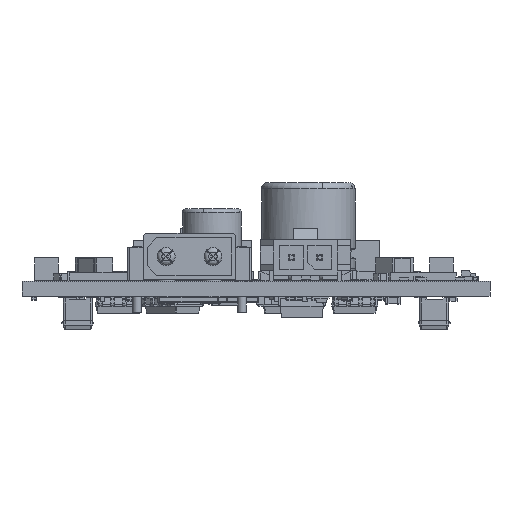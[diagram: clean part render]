
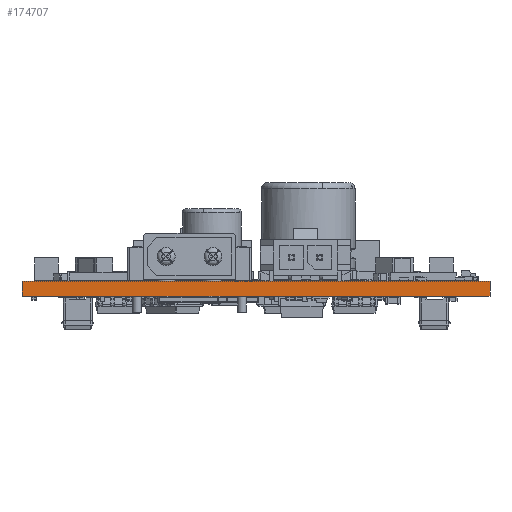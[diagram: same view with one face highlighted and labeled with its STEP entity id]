
A CAD part, front view. The second image highlights one B-rep face of the part: STEP entity #174707.
In plain terms, the highlighted planar face has unit normal (0, -1, 0).
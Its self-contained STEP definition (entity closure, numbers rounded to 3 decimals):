
#173170 = PLANE('',#173171);
#173171 = AXIS2_PLACEMENT_3D('',#173172,#173173,#173174);
#173172 = CARTESIAN_POINT('',(0.,32.399,1.6));
#173173 = DIRECTION('',(-0.,-0.,-1.));
#173174 = DIRECTION('',(-1.,0.,0.));
#173198 = PLANE('',#173199);
#173199 = AXIS2_PLACEMENT_3D('',#173200,#173201,#173202);
#173200 = CARTESIAN_POINT('',(25.,54.5,0.));
#173201 = DIRECTION('',(1.,0.,-0.));
#173202 = DIRECTION('',(0.,-1.,0.));
#173224 = PLANE('',#173225);
#173225 = AXIS2_PLACEMENT_3D('',#173226,#173227,#173228);
#173226 = CARTESIAN_POINT('',(0.,32.399,0.));
#173227 = DIRECTION('',(-0.,-0.,-1.));
#173228 = DIRECTION('',(-1.,0.,0.));
#173317 = VERTEX_POINT('',#173318);
#173318 = CARTESIAN_POINT('',(25.,0.,1.6));
#173339 = EDGE_CURVE('',#173340,#173317,#173342,.T.);
#173340 = VERTEX_POINT('',#173341);
#173341 = CARTESIAN_POINT('',(25.,-0.,0.));
#173342 = SURFACE_CURVE('',#173343,(#173347,#173354),.PCURVE_S1.);
#173343 = LINE('',#173344,#173345);
#173344 = CARTESIAN_POINT('',(25.,-0.,0.));
#173345 = VECTOR('',#173346,1.);
#173346 = DIRECTION('',(0.,0.,1.));
#173347 = PCURVE('',#173198,#173348);
#173348 = DEFINITIONAL_REPRESENTATION('',(#173349),#173353);
#173349 = LINE('',#173350,#173351);
#173350 = CARTESIAN_POINT('',(54.5,0.));
#173351 = VECTOR('',#173352,1.);
#173352 = DIRECTION('',(0.,-1.));
#173353 = ( GEOMETRIC_REPRESENTATION_CONTEXT(2) 
PARAMETRIC_REPRESENTATION_CONTEXT() REPRESENTATION_CONTEXT('2D SPACE',''
  ) );
#173354 = PCURVE('',#173355,#173360);
#173355 = PLANE('',#173356);
#173356 = AXIS2_PLACEMENT_3D('',#173357,#173358,#173359);
#173357 = CARTESIAN_POINT('',(25.,0.,0.));
#173358 = DIRECTION('',(0.,-1.,0.));
#173359 = DIRECTION('',(-1.,0.,0.));
#173360 = DEFINITIONAL_REPRESENTATION('',(#173361),#173365);
#173361 = LINE('',#173362,#173363);
#173362 = CARTESIAN_POINT('',(0.,0.));
#173363 = VECTOR('',#173364,1.);
#173364 = DIRECTION('',(0.,-1.));
#173365 = ( GEOMETRIC_REPRESENTATION_CONTEXT(2) 
PARAMETRIC_REPRESENTATION_CONTEXT() REPRESENTATION_CONTEXT('2D SPACE',''
  ) );
#173393 = EDGE_CURVE('',#173340,#173394,#173396,.T.);
#173394 = VERTEX_POINT('',#173395);
#173395 = CARTESIAN_POINT('',(-25.,-0.,0.));
#173396 = SURFACE_CURVE('',#173397,(#173401,#173408),.PCURVE_S1.);
#173397 = LINE('',#173398,#173399);
#173398 = CARTESIAN_POINT('',(25.,-0.,0.));
#173399 = VECTOR('',#173400,1.);
#173400 = DIRECTION('',(-1.,0.,0.));
#173401 = PCURVE('',#173224,#173402);
#173402 = DEFINITIONAL_REPRESENTATION('',(#173403),#173407);
#173403 = LINE('',#173404,#173405);
#173404 = CARTESIAN_POINT('',(-25.,-32.399));
#173405 = VECTOR('',#173406,1.);
#173406 = DIRECTION('',(1.,0.));
#173407 = ( GEOMETRIC_REPRESENTATION_CONTEXT(2) 
PARAMETRIC_REPRESENTATION_CONTEXT() REPRESENTATION_CONTEXT('2D SPACE',''
  ) );
#173408 = PCURVE('',#173355,#173409);
#173409 = DEFINITIONAL_REPRESENTATION('',(#173410),#173414);
#173410 = LINE('',#173411,#173412);
#173411 = CARTESIAN_POINT('',(0.,0.));
#173412 = VECTOR('',#173413,1.);
#173413 = DIRECTION('',(1.,0.));
#173414 = ( GEOMETRIC_REPRESENTATION_CONTEXT(2) 
PARAMETRIC_REPRESENTATION_CONTEXT() REPRESENTATION_CONTEXT('2D SPACE',''
  ) );
#173432 = PLANE('',#173433);
#173433 = AXIS2_PLACEMENT_3D('',#173434,#173435,#173436);
#173434 = CARTESIAN_POINT('',(-25.,0.,0.));
#173435 = DIRECTION('',(-1.,0.,0.));
#173436 = DIRECTION('',(0.,1.,0.));
#174087 = EDGE_CURVE('',#173317,#174088,#174090,.T.);
#174088 = VERTEX_POINT('',#174089);
#174089 = CARTESIAN_POINT('',(-25.,0.,1.6));
#174090 = SURFACE_CURVE('',#174091,(#174095,#174102),.PCURVE_S1.);
#174091 = LINE('',#174092,#174093);
#174092 = CARTESIAN_POINT('',(25.,0.,1.6));
#174093 = VECTOR('',#174094,1.);
#174094 = DIRECTION('',(-1.,0.,0.));
#174095 = PCURVE('',#173170,#174096);
#174096 = DEFINITIONAL_REPRESENTATION('',(#174097),#174101);
#174097 = LINE('',#174098,#174099);
#174098 = CARTESIAN_POINT('',(-25.,-32.399));
#174099 = VECTOR('',#174100,1.);
#174100 = DIRECTION('',(1.,0.));
#174101 = ( GEOMETRIC_REPRESENTATION_CONTEXT(2) 
PARAMETRIC_REPRESENTATION_CONTEXT() REPRESENTATION_CONTEXT('2D SPACE',''
  ) );
#174102 = PCURVE('',#173355,#174103);
#174103 = DEFINITIONAL_REPRESENTATION('',(#174104),#174108);
#174104 = LINE('',#174105,#174106);
#174105 = CARTESIAN_POINT('',(0.,-1.6));
#174106 = VECTOR('',#174107,1.);
#174107 = DIRECTION('',(1.,0.));
#174108 = ( GEOMETRIC_REPRESENTATION_CONTEXT(2) 
PARAMETRIC_REPRESENTATION_CONTEXT() REPRESENTATION_CONTEXT('2D SPACE',''
  ) );
#174707 = ADVANCED_FACE('',(#174708),#173355,.T.);
#174708 = FACE_BOUND('',#174709,.T.);
#174709 = EDGE_LOOP('',(#174710,#174711,#174712,#174733));
#174710 = ORIENTED_EDGE('',*,*,#173339,.T.);
#174711 = ORIENTED_EDGE('',*,*,#174087,.T.);
#174712 = ORIENTED_EDGE('',*,*,#174713,.F.);
#174713 = EDGE_CURVE('',#173394,#174088,#174714,.T.);
#174714 = SURFACE_CURVE('',#174715,(#174719,#174726),.PCURVE_S1.);
#174715 = LINE('',#174716,#174717);
#174716 = CARTESIAN_POINT('',(-25.,-0.,0.));
#174717 = VECTOR('',#174718,1.);
#174718 = DIRECTION('',(0.,0.,1.));
#174719 = PCURVE('',#173355,#174720);
#174720 = DEFINITIONAL_REPRESENTATION('',(#174721),#174725);
#174721 = LINE('',#174722,#174723);
#174722 = CARTESIAN_POINT('',(50.,0.));
#174723 = VECTOR('',#174724,1.);
#174724 = DIRECTION('',(0.,-1.));
#174725 = ( GEOMETRIC_REPRESENTATION_CONTEXT(2) 
PARAMETRIC_REPRESENTATION_CONTEXT() REPRESENTATION_CONTEXT('2D SPACE',''
  ) );
#174726 = PCURVE('',#173432,#174727);
#174727 = DEFINITIONAL_REPRESENTATION('',(#174728),#174732);
#174728 = LINE('',#174729,#174730);
#174729 = CARTESIAN_POINT('',(0.,0.));
#174730 = VECTOR('',#174731,1.);
#174731 = DIRECTION('',(0.,-1.));
#174732 = ( GEOMETRIC_REPRESENTATION_CONTEXT(2) 
PARAMETRIC_REPRESENTATION_CONTEXT() REPRESENTATION_CONTEXT('2D SPACE',''
  ) );
#174733 = ORIENTED_EDGE('',*,*,#173393,.F.);
